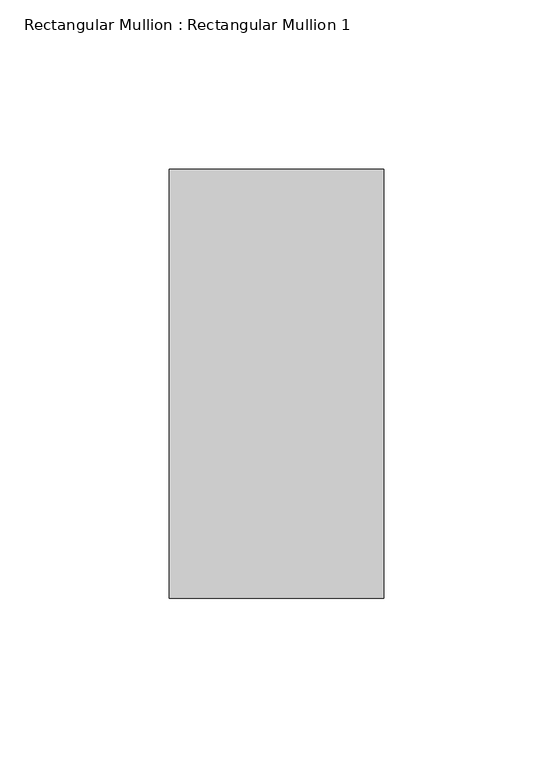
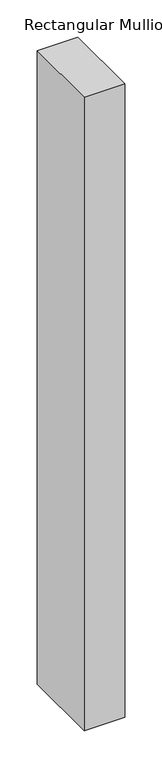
"""IFC4 building model written with IfcOpenShell, lengths in millimetres: member geometry, Rectangular Mullion : Rectangular Mullion 1."""

from ifc_helpers import new_model, si_unit, frame, origin, place, context, project, spatial, polyline, outline, extrude, source, transform, mapped, element, save


def rectangular_mullion_rectangular_mullion_1_8c062b62(model_context):
    return source(origin(), model_context, "Body", "SweptSolid", [
        extrude(outline(polyline([(0.0, 63.5), (0.0, -63.5), (-63.5, -63.5), (-63.5, 63.5), (0.0, 63.5)])), frame((0.0, 0.0, -1043.4108166), z_axis=(0.0, 0.0, 1.0), x_axis=(1.0, 0.0, 0.0)), (0.0, 0.0, 1.0), 1043.4108166),
    ])


if __name__ == "__main__":
    model = new_model("IFC4")
    model_context = context("Model", 3, world=origin())
    ifc_project = project(units=[si_unit("LENGTHUNIT", "METRE", prefix="MILLI")], contexts=[model_context])
    site = spatial("IfcSite", under=ifc_project)
    building = spatial("IfcBuilding", under=site)
    placement = place(None, origin())
    rectangular_mullion_rectangular_mullion_1_shape = rectangular_mullion_rectangular_mullion_1_8c062b62(model_context)
    element("IfcMember", 1, ObjectType="Rectangular Mullion : Rectangular Mullion 1", at=placement, inside=building, context=model_context, shape_type="MappedRepresentation", body=[
        mapped(rectangular_mullion_rectangular_mullion_1_shape, transform((0.0, 0.0, 0.0), x_axis=(1.0, 0.0, 0.0), y_axis=(0.0, 1.0, 0.0), z_axis=(0.0, 0.0, 1.0))),
    ])
    save(model, "model.ifc")
